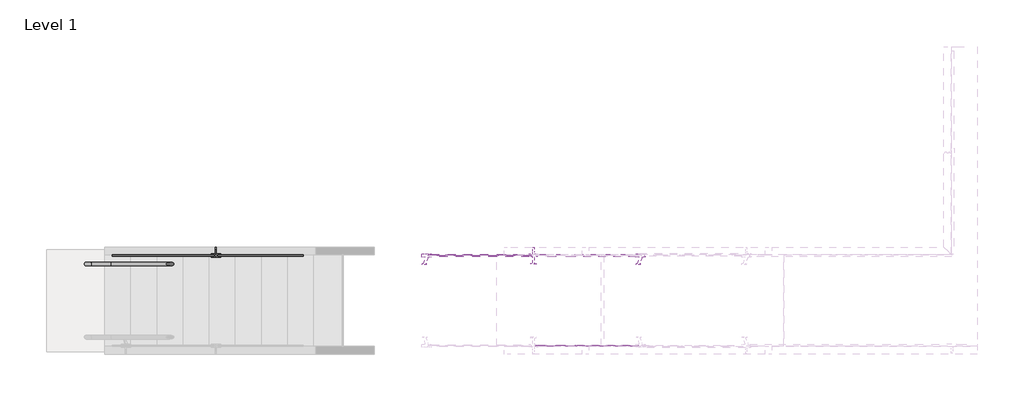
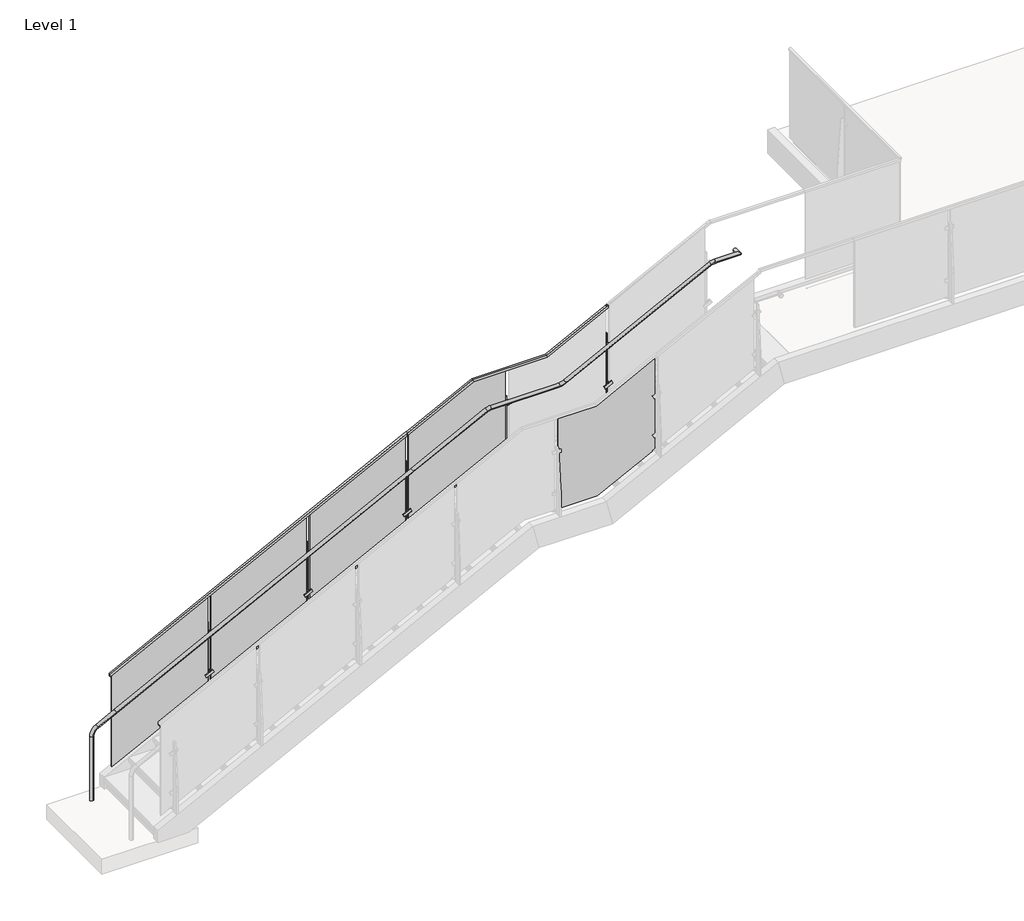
# One storey, part 28 of 37: 4 railings.
"""IFC4 building model written with IfcOpenShell, lengths in millimetres."""

from ifc_helpers import new_model, si_unit, point, frame, frame_2d, origin, place, context, project, spatial, polyline, circle_curve, ellipse_curve, trimmed, segment, composite_curve, outline, extrude, faceted_brep, transform, mapped, element, save
from ifc_brep_helpers import plane_surface, cylinder_surface, revolved_surface, advanced_brep
from components import baluster_landing_panel_viva_solo_lower_standard_glass_1d528cd6, baluster_landing_panel_viva_solo_upper_standard_glass_f4311c0a

model = new_model("IFC4")

# Units and contexts
model_context = context("Model", 3, world=origin())
ifc_project = project(units=[si_unit("LENGTHUNIT", "METRE", prefix="MILLI")], contexts=[model_context])

# Site, building, storey
site = spatial("IfcSite", under=ifc_project)
building = spatial("IfcBuilding", under=site)
storey = spatial("IfcBuildingStorey", under=building, Name="Level 1", Elevation=0.0)

# Railings
placement = place(None, origin())
element("IfcRailing", 1, ObjectType="VIVA-SOLO-Glass-Top_Weld_Steel-Channel Mount-Stair_Left", at=placement, inside=storey, context=model_context, shape_type="SolidModel", body=[
    advanced_brep(
    [(7796.9363892, 13771.1266645, 3730.2297243), (7796.9363892, 13809.2266645, 3730.2297243), (8069.9863892, 13771.1266645, 3730.2297243), (8031.8863892, 13809.2266645, 3730.2297243), (8069.9863892, 13853.6766645, 3730.2297243), (8031.8863892, 13853.6766645, 3730.2297243)],
    [
        (0, 1, circle_curve(frame((7796.9363892, 13790.1766645, 3730.2297243), z_axis=(-1.0, 0.0, 0.0), x_axis=(0.0, 1.0, 0.0)), 19.05)),
        (1, 0, circle_curve(frame((7796.9363892, 13790.1766645, 3730.2297243), z_axis=(-1.0, 0.0, 0.0), x_axis=(0.0, 1.0, 0.0)), 19.05)),
        (0, 2),
        (2, 3, ellipse_curve(frame((8050.9363892, 13790.1766645, 3730.2297243), z_axis=(-0.7071067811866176, -0.7071067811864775, 0.0), x_axis=(-0.7071067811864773, 0.7071067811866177, 0.0)), 26.9407684, 19.05)),
        (3, 1),
        (3, 2, ellipse_curve(frame((8050.9363892, 13790.1766645, 3730.2297243), z_axis=(-0.7071067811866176, -0.7071067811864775, 0.0), x_axis=(-0.7071067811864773, 0.7071067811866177, 0.0)), 26.9407684, 19.05)),
        (4, 5, circle_curve(frame((8050.9363892, 13853.6766645, 3730.2297243), z_axis=(0.0, 1.0, 0.0), x_axis=(-1.0, 0.0, 0.0)), 19.05)),
        (5, 4, circle_curve(frame((8050.9363892, 13853.6766645, 3730.2297243), z_axis=(0.0, 1.0, 0.0), x_axis=(-1.0, 0.0, 0.0)), 19.05)),
        (2, 4),
        (5, 3),
    ],
    [
        plane_surface(frame((7796.9363892, 13790.1766645, 3730.2297243), z_axis=(-1.0, 0.0, 0.0), x_axis=(0.0, 0.0, 1.0))),
        cylinder_surface(frame((7796.9363892, 13790.1766645, 3730.2297243), z_axis=(-1.0, 0.0, 0.0), x_axis=(0.0, 1.0, 0.0)), 19.05),
        plane_surface(frame((8050.9363892, 13853.6766645, 3730.2297243), z_axis=(0.0, 1.0, 0.0), x_axis=(0.0, 0.0, 1.0))),
        cylinder_surface(frame((8050.9363892, 13790.1766645, 3730.2297243), z_axis=(0.0, -1.0, 0.0), x_axis=(-1.0, 0.0, 0.0)), 19.05),
    ],
    [
        (0, [[1, 2]]),
        (1, [[-1, 3, 4, 5]]),
        (1, [[-2, -5, 6, -3]]),
        (2, [[7, 8]]),
        (3, [[-4, 9, -8, 10]]),
        (3, [[-6, -10, -7, -9]]),
    ],
),
    extrude(outline(composite_curve([segment(trimmed(circle_curve(frame_2d((1187.6734986, 13790.1766645)), 50.8), [point((1187.6734986, 13840.9766645))], [point((1187.6734986, 13739.3766645))], False, "CARTESIAN"), True, "CONTINUOUS"), segment(trimmed(circle_curve(frame_2d((1187.6734986, 13790.1766645)), 50.8), [point((1187.6734986, 13739.3766645))], [point((1187.6734986, 13840.9766645))], False, "CARTESIAN"), True, "CONTINUOUS")], self_intersect=False)), frame((0.0, 0.0, -27.94), z_axis=(0.0, 0.0, 1.0), x_axis=(1.0, 0.0, 0.0)), (0.0, 0.0, 1.0), 19.05),
    advanced_brep(
    [(1187.6734986, 13771.1266645, -8.89), (1187.6734986, 13809.2266645, -8.89), (1187.6734986, 13771.1266645, 714.6335715), (1187.6734986, 13809.2266645, 714.6335715), (1243.1848475, 13809.2266645, 805.1785672), (1243.1848475, 13771.1266645, 805.1785672), (1437.6151207, 13771.1266645, 904.1462566), (1437.6151207, 13809.2266645, 904.1462566), (4587.2151207, 13771.1266645, 2507.3360764), (4587.2151207, 13809.2266645, 2507.3360764), (5374.6370692, 13771.1266645, 2908.1447034), (5374.6370692, 13809.2266645, 2908.1447034), (5420.7257203, 13809.2266645, 2919.1997077), (5420.7257203, 13771.1266645, 2919.1997077), (6143.8965574, 13771.1266645, 2919.1997077), (6143.8965574, 13809.2266645, 2919.1997077), (6207.2684526, 13809.2266645, 2934.4003386), (6207.2684526, 13771.1266645, 2934.4003386), (7749.0231226, 13771.1266645, 3719.17472), (7749.0231226, 13809.2266645, 3719.17472), (7795.1117737, 13809.2266645, 3730.2297243), (7795.1117737, 13771.1266645, 3730.2297243), (7796.9363892, 13771.1266645, 3730.2297243), (7796.9363892, 13809.2266645, 3730.2297243)],
    [
        (0, 1, circle_curve(frame((1187.6734986, 13790.1766645, -8.89), z_axis=(0.0, 0.0, -1.0), x_axis=(0.0, 1.0, 0.0)), 19.05)),
        (1, 0, circle_curve(frame((1187.6734986, 13790.1766645, -8.89), z_axis=(0.0, 0.0, -1.0), x_axis=(0.0, 1.0, 0.0)), 19.05)),
        (0, 2),
        (2, 3, circle_curve(frame((1187.6734986, 13790.1766645, 714.6335715), z_axis=(0.0, 0.0, -1.0), x_axis=(0.0, 1.0, 0.0)), 19.05)),
        (3, 1),
        (3, 2, circle_curve(frame((1187.6734986, 13790.1766645, 714.6335715), z_axis=(0.0, 0.0, -1.0), x_axis=(0.0, 1.0, 0.0)), 19.05)),
        (4, 3, circle_curve(frame((1289.2734986, 13809.2266645, 714.6335715), z_axis=(0.0, -1.0, 0.0), x_axis=(-0.9999999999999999, 0.0, 0.0)), 101.6)),
        (2, 5, circle_curve(frame((1289.2734986, 13771.1266645, 714.6335715), z_axis=(0.0, 1.0, 0.0), x_axis=(-0.9999999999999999, 0.0, 0.0)), 101.6)),
        (5, 4, circle_curve(frame((1243.1848475, 13790.1766645, 805.1785672), z_axis=(-0.8911909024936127, 0.0, -0.45362845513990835), x_axis=(0.0, 0.9999999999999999, 0.0)), 19.05)),
        (4, 5, circle_curve(frame((1243.1848475, 13790.1766645, 805.1785672), z_axis=(-0.8911909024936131, 0.0, -0.45362845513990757), x_axis=(0.0, 0.9999999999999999, 0.0)), 19.05)),
        (5, 6),
        (6, 7, circle_curve(frame((1437.6151207, 13790.1766645, 904.1462566), z_axis=(-0.8911909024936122, 0.0, -0.4536284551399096), x_axis=(0.0, 1.0, 0.0)), 19.05)),
        (7, 4),
        (7, 6, circle_curve(frame((1437.6151207, 13790.1766645, 904.1462566), z_axis=(-0.8911909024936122, 0.0, -0.4536284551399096), x_axis=(0.0, 1.0, 0.0)), 19.05)),
        (6, 8),
        (8, 9, circle_curve(frame((4587.2151207, 13790.1766645, 2507.3360764), z_axis=(-0.8911909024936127, 0.0, -0.45362845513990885), x_axis=(0.0, 1.0, 0.0)), 19.05)),
        (9, 7),
        (9, 8, circle_curve(frame((4587.2151207, 13790.1766645, 2507.3360764), z_axis=(-0.8911909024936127, 0.0, -0.45362845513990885), x_axis=(0.0, 1.0, 0.0)), 19.05)),
        (8, 10),
        (10, 11, circle_curve(frame((5374.6370692, 13790.1766645, 2908.1447034), z_axis=(-0.8911909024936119, 0.0, -0.45362845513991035), x_axis=(0.0, 1.0, 0.0)), 19.05)),
        (11, 9),
        (11, 10, circle_curve(frame((5374.6370692, 13790.1766645, 2908.1447034), z_axis=(-0.8911909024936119, 0.0, -0.45362845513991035), x_axis=(0.0, 1.0, 0.0)), 19.05)),
        (12, 13, circle_curve(frame((5420.7257203, 13790.1766645, 2919.1997077), z_axis=(1.0, 0.0, 0.0), x_axis=(0.0, 1.0, 0.0)), 19.05)),
        (13, 14),
        (14, 15, circle_curve(frame((6143.8965574, 13790.1766645, 2919.1997077), z_axis=(-1.0, 0.0, 0.0), x_axis=(0.0, 1.0, 0.0)), 19.05)),
        (15, 12),
        (13, 12, circle_curve(frame((5420.7257203, 13790.1766645, 2919.1997077), z_axis=(1.0, 0.0, 0.0), x_axis=(0.0, 1.0, 0.0)), 19.05)),
        (15, 14, circle_curve(frame((6143.8965574, 13790.1766645, 2919.1997077), z_axis=(-1.0, 0.0, 0.0), x_axis=(0.0, 1.0, 0.0)), 19.05)),
        (16, 15, circle_curve(frame((6143.8965574, 13809.2266645, 3058.8997077), z_axis=(0.0, 1.0, 0.0), x_axis=(0.0, 0.0, -0.9999999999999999)), 139.7)),
        (14, 17, circle_curve(frame((6143.8965574, 13771.1266645, 3058.8997077), z_axis=(0.0, -1.0, 0.0), x_axis=(0.0, 0.0, -0.9999999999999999)), 139.7)),
        (17, 16, circle_curve(frame((6207.2684526, 13790.1766645, 2934.4003386), z_axis=(-0.8911909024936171, 0.0, -0.4536284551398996), x_axis=(0.0, 0.9999999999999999, 0.0)), 19.05)),
        (16, 17, circle_curve(frame((6207.2684526, 13790.1766645, 2934.4003386), z_axis=(-0.8911909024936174, 0.0, -0.4536284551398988), x_axis=(0.0, 0.9999999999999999, 0.0)), 19.05)),
        (17, 18),
        (18, 19, circle_curve(frame((7749.0231226, 13790.1766645, 3719.17472), z_axis=(-0.8911909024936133, 0.0, -0.4536284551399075), x_axis=(0.0, 1.0, 0.0)), 19.05)),
        (19, 16),
        (19, 18, circle_curve(frame((7749.0231226, 13790.1766645, 3719.17472), z_axis=(-0.8911909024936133, 0.0, -0.4536284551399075), x_axis=(0.0, 1.0, 0.0)), 19.05)),
        (20, 19, circle_curve(frame((7795.1117737, 13809.2266645, 3628.6297243), z_axis=(0.0, -1.0, 0.0), x_axis=(-0.453628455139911, 0.0, 0.8911909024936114)), 101.6)),
        (18, 21, circle_curve(frame((7795.1117737, 13771.1266645, 3628.6297243), z_axis=(0.0, 1.0, 0.0), x_axis=(-0.453628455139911, 0.0, 0.8911909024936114)), 101.6)),
        (21, 20, circle_curve(frame((7795.1117737, 13790.1766645, 3730.2297243), z_axis=(-1.0, 0.0, 0.0), x_axis=(0.0, 1.0, 0.0)), 19.05)),
        (20, 21, circle_curve(frame((7795.1117737, 13790.1766645, 3730.2297243), z_axis=(-0.9999999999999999, 0.0, 0.0), x_axis=(0.0, 1.0, 0.0)), 19.05)),
        (22, 23, circle_curve(frame((7796.9363892, 13790.1766645, 3730.2297243), z_axis=(1.0, 0.0, 0.0), x_axis=(0.0, 1.0, 0.0)), 19.05)),
        (23, 22, circle_curve(frame((7796.9363892, 13790.1766645, 3730.2297243), z_axis=(1.0, 0.0, 0.0), x_axis=(0.0, 1.0, 0.0)), 19.05)),
        (21, 22),
        (23, 20),
        (12, 11, circle_curve(frame((5420.7257203, 13809.2266645, 2817.5997077), z_axis=(0.0, -1.0, 0.0), x_axis=(-0.4536284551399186, 0.0, 0.8911909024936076)), 101.6)),
        (10, 13, circle_curve(frame((5420.7257203, 13771.1266645, 2817.5997077), z_axis=(0.0, 1.0, 0.0), x_axis=(-0.4536284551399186, 0.0, 0.8911909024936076)), 101.6)),
    ],
    [
        plane_surface(frame((1168.6234986, 13752.0766645, -8.89), z_axis=(0.0, 0.0, -1.0), x_axis=(1.0, 0.0, 0.0))),
        cylinder_surface(frame((1187.6734986, 13790.1766645, -8.89), z_axis=(0.0, 0.0, -1.0), x_axis=(0.0, 1.0, 0.0)), 19.05),
        revolved_surface(trimmed(ellipse_curve(frame((1187.6734986, 13790.1766645, 714.6335715), z_axis=(0.0, 0.0, -0.9999999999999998), x_axis=(0.0, 0.9999999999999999, 0.0)), 19.05, 19.05), [point((1187.6734986, 13771.1266645, 714.6335715))], [point((1187.6734986, 13809.2266645, 714.6335715))], True, "CARTESIAN"), (1289.2734986, 13790.1766645, 714.6335715), (0.0, 0.9999999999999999, 0.0)),
        revolved_surface(trimmed(ellipse_curve(frame((1187.6734986, 13790.1766645, 714.6335715), z_axis=(0.0, 0.0, -0.9999999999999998), x_axis=(0.0, 0.9999999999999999, 0.0)), 19.05, 19.05), [point((1187.6734986, 13809.2266645, 714.6335715))], [point((1187.6734986, 13771.1266645, 714.6335715))], True, "CARTESIAN"), (1289.2734986, 13790.1766645, 714.6335715), (0.0, 0.9999999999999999, 0.0)),
        cylinder_surface(frame((1243.1848475, 13790.1766645, 805.1785672), z_axis=(-0.8911909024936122, 0.0, -0.4536284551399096), x_axis=(0.0, 1.0, 0.0)), 19.05),
        cylinder_surface(frame((1437.6151207, 13790.1766645, 904.1462566), z_axis=(-0.8911909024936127, 0.0, -0.45362845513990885), x_axis=(0.0, 1.0, 0.0)), 19.05),
        cylinder_surface(frame((4587.2151207, 13790.1766645, 2507.3360764), z_axis=(-0.8911909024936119, 0.0, -0.45362845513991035), x_axis=(0.0, 1.0, 0.0)), 19.05),
        cylinder_surface(frame((5420.7257203, 13790.1766645, 2919.1997077), z_axis=(-1.0, 0.0, 0.0), x_axis=(0.0, 1.0, 0.0)), 19.05),
        revolved_surface(trimmed(ellipse_curve(frame((6143.8965574, 13790.1766645, 2919.1997077), z_axis=(-0.9999999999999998, 0.0, 0.0), x_axis=(0.0, 0.9999999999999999, 0.0)), 19.05, 19.05), [point((6143.8965574, 13771.1266645, 2919.1997077))], [point((6143.8965574, 13809.2266645, 2919.1997077))], True, "CARTESIAN"), (6143.8965574, 13790.1766645, 3058.8997077), (0.0, -0.9999999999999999, 0.0)),
        revolved_surface(trimmed(ellipse_curve(frame((6143.8965574, 13790.1766645, 2919.1997077), z_axis=(-0.9999999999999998, 0.0, 0.0), x_axis=(0.0, 0.9999999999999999, 0.0)), 19.05, 19.05), [point((6143.8965574, 13809.2266645, 2919.1997077))], [point((6143.8965574, 13771.1266645, 2919.1997077))], True, "CARTESIAN"), (6143.8965574, 13790.1766645, 3058.8997077), (0.0, -0.9999999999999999, 0.0)),
        cylinder_surface(frame((6207.2684526, 13790.1766645, 2934.4003386), z_axis=(-0.8911909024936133, 0.0, -0.4536284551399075), x_axis=(0.0, 1.0, 0.0)), 19.05),
        revolved_surface(trimmed(ellipse_curve(frame((7749.0231226, 13790.1766645, 3719.17472), z_axis=(-0.8911909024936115, 0.0, -0.4536284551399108), x_axis=(0.0, 1.0, 0.0)), 19.05, 19.05), [point((7749.0231226, 13771.1266645, 3719.17472))], [point((7749.0231226, 13809.2266645, 3719.17472))], True, "CARTESIAN"), (7795.1117737, 13790.1766645, 3628.6297243), (0.0, 1.0, 0.0)),
        revolved_surface(trimmed(ellipse_curve(frame((7749.0231226, 13790.1766645, 3719.17472), z_axis=(-0.8911909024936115, 0.0, -0.4536284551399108), x_axis=(0.0, 1.0, 0.0)), 19.05, 19.05), [point((7749.0231226, 13809.2266645, 3719.17472))], [point((7749.0231226, 13771.1266645, 3719.17472))], True, "CARTESIAN"), (7795.1117737, 13790.1766645, 3628.6297243), (0.0, 1.0, 0.0)),
        plane_surface(frame((7796.9363892, 13790.1766645, 3749.2797243), z_axis=(1.0, 0.0, 0.0), x_axis=(0.0, 1.0, 0.0))),
        cylinder_surface(frame((7795.1117737, 13790.1766645, 3730.2297243), z_axis=(-1.0, 0.0, 0.0), x_axis=(0.0, 1.0, 0.0)), 19.05),
        revolved_surface(trimmed(ellipse_curve(frame((5374.6370692, 13790.1766645, 2908.1447034), z_axis=(-0.8911909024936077, 0.0, -0.45362845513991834), x_axis=(0.0, 1.0, 0.0)), 19.05, 19.05), [point((5374.6370692, 13771.1266645, 2908.1447034))], [point((5374.6370692, 13809.2266645, 2908.1447034))], True, "CARTESIAN"), (5420.7257203, 13790.1766645, 2817.5997077), (0.0, 1.0, 0.0)),
        revolved_surface(trimmed(ellipse_curve(frame((5374.6370692, 13790.1766645, 2908.1447034), z_axis=(-0.8911909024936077, 0.0, -0.45362845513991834), x_axis=(0.0, 1.0, 0.0)), 19.05, 19.05), [point((5374.6370692, 13809.2266645, 2908.1447034))], [point((5374.6370692, 13771.1266645, 2908.1447034))], True, "CARTESIAN"), (5420.7257203, 13790.1766645, 2817.5997077), (0.0, 1.0, 0.0)),
    ],
    [
        (0, [[1, 2]]),
        (1, [[-1, 3, 4, 5]]),
        (1, [[-2, -5, 6, -3]]),
        (2, [[7, -4, 8, 9]]),
        (3, [[-8, -6, -7, 10]]),
        (4, [[-9, 11, 12, 13]]),
        (4, [[-10, -13, 14, -11]]),
        (5, [[-12, 15, 16, 17]]),
        (5, [[-14, -17, 18, -15]]),
        (6, [[-16, 19, 20, 21]]),
        (6, [[-18, -21, 22, -19]]),
        (7, [[23, 24, 25, 26]]),
        (7, [[27, -26, 28, -24]]),
        (8, [[29, -25, 30, 31]]),
        (9, [[-30, -28, -29, 32]]),
        (10, [[-31, 33, 34, 35]]),
        (10, [[-32, -35, 36, -33]]),
        (11, [[37, -34, 38, 39]]),
        (12, [[-38, -36, -37, 40]]),
        (13, [[41, 42]]),
        (14, [[-39, 43, -42, 44]]),
        (14, [[-40, -44, -41, -43]]),
        (15, [[45, -20, 46, -23]]),
        (16, [[-46, -22, -45, -27]]),
    ],
),
    faceted_brep([(1428.9734986, 13864.5986645, 1279.2634433), (1428.9734986, 13886.8236645, 1279.2634433), (1428.9734986, 13886.8236645, 1250.7622547), (1428.9734986, 13882.0611645, 1250.7622547), (1428.9734986, 13882.0611645, 1273.9194705), (1428.9734986, 13869.3611645, 1273.9194705), (1428.9734986, 13869.3611645, 1250.7622547), (1428.9734986, 13864.5986645, 1250.7622547), (4578.5734986, 13864.5986645, 2882.453263), (4578.5734986, 13864.5986645, 2853.9520744), (4578.5734986, 13869.3611645, 2853.9520744), (4578.5734986, 13869.3611645, 2877.1092902), (4578.5734986, 13882.0611645, 2877.1092902), (4578.5734986, 13882.0611645, 2853.9520744), (4578.5734986, 13886.8236645, 2853.9520744), (4578.5734986, 13886.8236645, 2882.453263)], [[[0, 1, 2, 3, 4, 5, 6, 7]], [[8, 9, 10, 11, 12, 13, 14, 15]], [[1, 0, 8, 15]], [[2, 1, 15, 14]], [[3, 2, 14, 13]], [[4, 3, 13, 12]], [[5, 4, 12, 11]], [[6, 5, 11, 10]], [[7, 6, 10, 9]], [[0, 7, 9, 8]]]),
    extrude(outline(polyline([(2868.4999629, 4562.0232119), (2351.3419566, 3546.0232119), (1300.06135, 3546.0232119), (1817.2193564, 4562.0232119), (2868.4999629, 4562.0232119)])), frame((0.0, 13869.4246645, 0.0), z_axis=(0.0, 1.0, 0.0), x_axis=(0.0, 0.0, 1.0)), (0.0, 0.0, 1.0), 12.7),
    extrude(outline(polyline([(-12.7, 0.0), (0.0, 0.0), (0.0, -3.175), (58.7375, -34.925), (61.9125, -34.925), (61.9125, -65.0875), (50.8, -65.0875), (-12.7, -3.175), (-12.7, 0.0)])), frame((3501.0892271, 13797.7361306, 1935.8078332), z_axis=(0.8987940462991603, 0.0, 0.4383711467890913), x_axis=(0.0, 1.0, 0.0)), (0.0, 0.0, 1.0), 12.7),
    extrude(outline(polyline([(13891.7131645, 2017.8566565), (13917.1131645, 2017.8566565), (13955.2131645, 1484.4566565), (13955.2131645, 1227.9420499), (13891.7131645, 1227.9420499), (13891.7131645, 2017.8566565)])), frame((3522.3568319, 0.0, 0.0), z_axis=(1.0, 0.0, 0.0), x_axis=(0.0, 1.0, 0.0)), (0.0, 0.0, 1.0), 12.7),
    extrude(outline(polyline([(0.0, 88.9), (9.525, 88.9), (9.525, 0.0), (0.0, 0.0), (0.0, 88.9)])), frame((3575.6284037, 13881.8736306, 1461.6851276), z_axis=(-0.4383711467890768, 0.0, 0.8987940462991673), x_axis=(0.0, 1.0, 0.0)), (0.0, 0.0, 1.0), 31.75),
    extrude(outline(polyline([(0.0, 88.9), (9.525, 88.9), (9.525, 0.0), (0.0, 0.0), (0.0, 88.9)])), frame((3575.6284037, 13859.6486306, 1898.8634122), z_axis=(-0.4383711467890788, 0.0, 0.8987940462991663), x_axis=(0.0, 1.0, 0.0)), (0.0, 0.0, 1.0), 31.75),
    extrude(outline(polyline([(0.0, 88.9), (9.525, 88.9), (9.525, 0.0), (0.0, 0.0), (0.0, 88.9)])), frame((3575.6284037, 13881.8736306, 1898.8634122), z_axis=(-0.4383711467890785, 0.0, 0.8987940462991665), x_axis=(0.0, 1.0, 0.0)), (0.0, 0.0, 1.0), 31.75),
    extrude(outline(polyline([(0.0, 88.9), (9.525, 88.9), (9.525, 0.0), (0.0, 0.0), (0.0, 88.9)])), frame((3575.6284037, 13859.6486306, 1461.6851276), z_axis=(-0.43837114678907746, 0.0, 0.898794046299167), x_axis=(0.0, 1.0, 0.0)), (0.0, 0.0, 1.0), 31.75),
    extrude(outline(polyline([(1305.1332085, 3564.4797891), (1310.8405507, 3561.6961324), (1271.8693557, 3481.7933416), (1266.1620135, 3484.5769984), (1265.9508552, 3534.1351435), (1305.1332085, 3564.4797891)])), frame((0.0, 13869.1736306, 0.0), z_axis=(0.0, 1.0, 0.0), x_axis=(0.0, 0.0, 1.0)), (0.0, 0.0, 1.0), 12.7),
    extrude(outline(composite_curve([segment(trimmed(circle_curve(frame_2d((24.5007934, -6.6985914)), 25.4), [point((0.0, 0.0))], [point((6.4034747, 11.1240644))], False, "CARTESIAN"), True, "CONTINUOUS"), segment(polyline([(6.4034747, 11.1240644), (8.7901893, 9.7460941)]), True, "CONTINUOUS"), segment(trimmed(circle_curve(frame_2d((26.8875079, -8.0765616)), 25.4), [point((8.7901893, 9.7460941))], [point((2.8057896, 0.0))], True, "CARTESIAN"), True, "CONTINUOUS"), segment(polyline([(2.8057896, 0.0), (0.0, 0.0)]), True, "CONTINUOUS")], self_intersect=False)), frame((3485.1681095, 13797.835377, 1924.9946344), z_axis=(0.8987940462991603, 0.0, 0.4383711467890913), x_axis=(-0.37964054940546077, -0.5000000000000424, 0.7783784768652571)), (0.0, 0.0, 1.0), 50.8),
    extrude(outline(composite_curve([segment(trimmed(circle_curve(frame_2d((1474.7125104, 3528.7178664)), 6.35), [point((1474.7125104, 3535.0678664))], [point((1474.7125104, 3522.3678664))], False, "CARTESIAN"), True, "CONTINUOUS"), segment(trimmed(circle_curve(frame_2d((1474.7125104, 3528.7178664)), 6.35), [point((1474.7125104, 3522.3678664))], [point((1474.7125104, 3535.0678664))], False, "CARTESIAN"), True, "CONTINUOUS")], self_intersect=False)), frame((0.0, 13869.1736306, 0.0), z_axis=(0.0, 1.0, 0.0), x_axis=(0.0, 0.0, 1.0)), (0.0, 0.0, 1.0), 12.7),
    extrude(outline(composite_curve([segment(trimmed(circle_curve(frame_2d((1892.9516201, 3528.7178664)), 6.35), [point((1892.9516201, 3535.0678664))], [point((1892.9516201, 3522.3678664))], False, "CARTESIAN"), True, "CONTINUOUS"), segment(trimmed(circle_curve(frame_2d((1892.9516201, 3528.7178664)), 6.35), [point((1892.9516201, 3522.3678664))], [point((1892.9516201, 3535.0678664))], False, "CARTESIAN"), True, "CONTINUOUS")], self_intersect=False)), frame((0.0, 13869.1736306, 0.0), z_axis=(0.0, 1.0, 0.0), x_axis=(0.0, 0.0, 1.0)), (0.0, 0.0, 1.0), 12.7),
    extrude(outline(composite_curve([segment(trimmed(circle_curve(frame_2d((1251.828047, 3528.7178664)), 11.1125), [point((1251.828047, 3539.8303664))], [point((1251.828047, 3517.6053664))], False, "CARTESIAN"), True, "CONTINUOUS"), segment(trimmed(circle_curve(frame_2d((1251.828047, 3528.7178664)), 11.1125), [point((1251.828047, 3517.6053664))], [point((1251.828047, 3539.8303664))], False, "CARTESIAN"), True, "CONTINUOUS")], self_intersect=False)), frame((0.0, 13865.9986306, 0.0), z_axis=(0.0, 1.0, 0.0), x_axis=(0.0, 0.0, 1.0)), (0.0, 0.0, 1.0), 25.4),
    extrude(outline(polyline([(2334.1033564, 3512.1565452), (1816.94535, 2496.1565452), (765.6647434, 2496.1565452), (1282.8227498, 3512.1565452), (2334.1033564, 3512.1565452)])), frame((0.0, 13869.4246645, 0.0), z_axis=(0.0, 1.0, 0.0), x_axis=(0.0, 0.0, 1.0)), (0.0, 0.0, 1.0), 12.7),
    extrude(outline(polyline([(-12.7, 0.0), (0.0, 0.0), (0.0, -3.175), (58.7375, -34.9249999), (61.9125, -34.9249999), (61.9125, -65.0875), (50.8, -65.0875), (-12.7, -3.175), (-12.7, 0.0)])), frame((2451.2225604, 13797.7361306, 1401.4112266), z_axis=(0.8987940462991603, 0.0, 0.4383711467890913), x_axis=(0.0, 1.0, 0.0)), (0.0, 0.0, 1.0), 12.7),
    extrude(outline(polyline([(13891.7131645, 1483.4600499), (13917.1131645, 1483.4600499), (13955.2131645, 950.0600499), (13955.2131645, 693.5454433), (13891.7131645, 693.5454433), (13891.7131645, 1483.4600499)])), frame((2472.4901653, 0.0, 0.0), z_axis=(1.0, 0.0, 0.0), x_axis=(0.0, 1.0, 0.0)), (0.0, 0.0, 1.0), 12.7),
    extrude(outline(polyline([(0.0, 88.9000001), (9.525, 88.9000001), (9.525, 0.0), (0.0, 0.0), (0.0, 88.9000001)])), frame((2525.7617371, 13881.8736306, 927.288521), z_axis=(-0.4383711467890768, 0.0, 0.8987940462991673), x_axis=(0.0, 1.0, 0.0)), (0.0, 0.0, 1.0), 31.75),
    extrude(outline(polyline([(0.0, 88.9000001), (9.525, 88.9000001), (9.525, 0.0), (0.0, 0.0), (0.0, 88.9000001)])), frame((2525.7617371, 13859.6486306, 1364.4668056), z_axis=(-0.4383711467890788, 0.0, 0.8987940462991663), x_axis=(0.0, 1.0, 0.0)), (0.0, 0.0, 1.0), 31.75),
    extrude(outline(polyline([(0.0, 88.9000001), (9.525, 88.9000001), (9.525, 0.0), (0.0, 0.0), (0.0, 88.9000001)])), frame((2525.7617371, 13881.8736306, 1364.4668056), z_axis=(-0.4383711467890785, 0.0, 0.8987940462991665), x_axis=(0.0, 1.0, 0.0)), (0.0, 0.0, 1.0), 31.75),
    extrude(outline(polyline([(0.0, 88.9000001), (9.525, 88.9000001), (9.525, 0.0), (0.0, 0.0), (0.0, 88.9000001)])), frame((2525.7617371, 13859.6486306, 927.288521), z_axis=(-0.43837114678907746, 0.0, 0.898794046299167), x_axis=(0.0, 1.0, 0.0)), (0.0, 0.0, 1.0), 31.75),
    extrude(outline(polyline([(770.7366019, 2514.6131225), (776.4439441, 2511.8294657), (737.4727491, 2431.926675), (731.7654069, 2434.7103318), (731.5542486, 2484.2684768), (770.7366019, 2514.6131225)])), frame((0.0, 13869.1736306, 0.0), z_axis=(0.0, 1.0, 0.0), x_axis=(0.0, 0.0, 1.0)), (0.0, 0.0, 1.0), 12.7),
    extrude(outline(composite_curve([segment(trimmed(circle_curve(frame_2d((24.5007933, -6.6985913)), 25.4), [point((0.0, 0.0))], [point((6.4034746, 11.1240644))], False, "CARTESIAN"), True, "CONTINUOUS"), segment(polyline([(6.4034746, 11.1240644), (8.7901892, 9.7460941)]), True, "CONTINUOUS"), segment(trimmed(circle_curve(frame_2d((26.8875078, -8.0765616)), 25.4), [point((8.7901892, 9.7460941))], [point((2.8057896, 0.0))], True, "CARTESIAN"), True, "CONTINUOUS"), segment(polyline([(2.8057896, 0.0), (0.0, 0.0)]), True, "CONTINUOUS")], self_intersect=False)), frame((2435.3014428, 13797.835377, 1390.5980279), z_axis=(0.8987940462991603, 0.0, 0.4383711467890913), x_axis=(-0.37964054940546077, -0.5000000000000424, 0.7783784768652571)), (0.0, 0.0, 1.0), 50.8),
    extrude(outline(composite_curve([segment(trimmed(circle_curve(frame_2d((940.3159039, 2478.8511997)), 6.35), [point((940.3159039, 2485.2011997))], [point((940.3159039, 2472.5011997))], False, "CARTESIAN"), True, "CONTINUOUS"), segment(trimmed(circle_curve(frame_2d((940.3159039, 2478.8511997)), 6.35), [point((940.3159039, 2472.5011997))], [point((940.3159039, 2485.2011997))], False, "CARTESIAN"), True, "CONTINUOUS")], self_intersect=False)), frame((0.0, 13869.1736306, 0.0), z_axis=(0.0, 1.0, 0.0), x_axis=(0.0, 0.0, 1.0)), (0.0, 0.0, 1.0), 12.7),
    extrude(outline(composite_curve([segment(trimmed(circle_curve(frame_2d((1358.5550135, 2478.8511997)), 6.35), [point((1358.5550135, 2485.2011997))], [point((1358.5550135, 2472.5011997))], False, "CARTESIAN"), True, "CONTINUOUS"), segment(trimmed(circle_curve(frame_2d((1358.5550135, 2478.8511997)), 6.35), [point((1358.5550135, 2472.5011997))], [point((1358.5550135, 2485.2011997))], False, "CARTESIAN"), True, "CONTINUOUS")], self_intersect=False)), frame((0.0, 13869.1736306, 0.0), z_axis=(0.0, 1.0, 0.0), x_axis=(0.0, 0.0, 1.0)), (0.0, 0.0, 1.0), 12.7),
    extrude(outline(composite_curve([segment(trimmed(circle_curve(frame_2d((717.4314405, 2478.8511997)), 11.1125), [point((717.4314405, 2489.9636997))], [point((717.4314405, 2467.7386997))], False, "CARTESIAN"), True, "CONTINUOUS"), segment(trimmed(circle_curve(frame_2d((717.4314405, 2478.8511997)), 11.1125), [point((717.4314405, 2467.7386997))], [point((717.4314405, 2489.9636997))], False, "CARTESIAN"), True, "CONTINUOUS")], self_intersect=False)), frame((0.0, 13865.9986306, 0.0), z_axis=(0.0, 1.0, 0.0), x_axis=(0.0, 0.0, 1.0)), (0.0, 0.0, 1.0), 25.4),
    extrude(outline(polyline([(1799.7067498, 2462.2898785), (1282.5487434, 1446.2898785), (231.2681369, 1446.2898785), (748.4261432, 2462.2898785), (1799.7067498, 2462.2898785)])), frame((0.0, 13869.4246645, 0.0), z_axis=(0.0, 1.0, 0.0), x_axis=(0.0, 0.0, 1.0)), (0.0, 0.0, 1.0), 12.7),
    extrude(outline(polyline([(-12.7, 0.0), (0.0, 0.0), (0.0, -3.175), (58.7375, -34.925), (61.9125, -34.925), (61.9125, -65.0875), (50.8, -65.0875), (-12.7, -3.175), (-12.7, 0.0)])), frame((4550.9558937, 13797.7361306, 2470.2044398), z_axis=(0.8987940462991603, 0.0, 0.4383711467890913), x_axis=(0.0, 1.0, 0.0)), (0.0, 0.0, 1.0), 12.7),
    extrude(outline(polyline([(13891.7131645, 2552.253263), (13917.1131645, 2552.253263), (13955.2131645, 2018.853263), (13955.2131645, 1762.3386565), (13891.7131645, 1762.3386565), (13891.7131645, 2552.253263)])), frame((4572.2234986, 0.0, 0.0), z_axis=(1.0, 0.0, 0.0), x_axis=(0.0, 1.0, 0.0)), (0.0, 0.0, 1.0), 12.7),
    extrude(outline(polyline([(0.0, 88.9), (9.525, 88.9), (9.525, 0.0), (0.0, 0.0), (0.0, 88.9)])), frame((4625.4950704, 13881.8736306, 1996.0817341), z_axis=(-0.4383711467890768, 0.0, 0.8987940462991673), x_axis=(0.0, 1.0, 0.0)), (0.0, 0.0, 1.0), 31.75),
    extrude(outline(polyline([(0.0, 88.9), (9.525, 88.9), (9.525, 0.0), (0.0, 0.0), (0.0, 88.9)])), frame((4625.4950704, 13859.6486306, 2433.2600188), z_axis=(-0.4383711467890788, 0.0, 0.8987940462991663), x_axis=(0.0, 1.0, 0.0)), (0.0, 0.0, 1.0), 31.75),
    extrude(outline(polyline([(0.0, 88.9), (9.525, 88.9), (9.525, 0.0), (0.0, 0.0), (0.0, 88.9)])), frame((4625.4950704, 13881.8736306, 2433.2600188), z_axis=(-0.4383711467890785, 0.0, 0.8987940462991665), x_axis=(0.0, 1.0, 0.0)), (0.0, 0.0, 1.0), 31.75),
    extrude(outline(polyline([(0.0, 88.9), (9.525, 88.9), (9.525, 0.0), (0.0, 0.0), (0.0, 88.9)])), frame((4625.4950704, 13859.6486306, 1996.0817341), z_axis=(-0.43837114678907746, 0.0, 0.898794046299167), x_axis=(0.0, 1.0, 0.0)), (0.0, 0.0, 1.0), 31.75),
    extrude(outline(polyline([(1839.529815, 4614.3464558), (1845.2371572, 4611.562799), (1806.2659623, 4531.6600083), (1800.5586201, 4534.4436651), (1800.3474618, 4584.0018101), (1839.529815, 4614.3464558)])), frame((0.0, 13869.1736306, 0.0), z_axis=(0.0, 1.0, 0.0), x_axis=(0.0, 0.0, 1.0)), (0.0, 0.0, 1.0), 12.7),
    extrude(outline(composite_curve([segment(trimmed(circle_curve(frame_2d((24.5007934, -6.6985914)), 25.4), [point((0.0, 0.0))], [point((6.4034747, 11.1240644))], False, "CARTESIAN"), True, "CONTINUOUS"), segment(polyline([(6.4034747, 11.1240644), (8.7901892, 9.7460941)]), True, "CONTINUOUS"), segment(trimmed(circle_curve(frame_2d((26.8875079, -8.0765616)), 25.4), [point((8.7901892, 9.7460941))], [point((2.8057896, 0.0))], True, "CARTESIAN"), True, "CONTINUOUS"), segment(polyline([(2.8057896, 0.0), (0.0, 0.0)]), True, "CONTINUOUS")], self_intersect=False)), frame((4535.0347762, 13797.835377, 2459.391241), z_axis=(0.8987940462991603, 0.0, 0.4383711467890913), x_axis=(-0.37964054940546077, -0.5000000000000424, 0.7783784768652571)), (0.0, 0.0, 1.0), 50.8),
    extrude(outline(composite_curve([segment(trimmed(circle_curve(frame_2d((2009.109117, 4578.5845331)), 6.35), [point((2009.109117, 4584.9345331))], [point((2009.109117, 4572.2345331))], False, "CARTESIAN"), True, "CONTINUOUS"), segment(trimmed(circle_curve(frame_2d((2009.109117, 4578.5845331)), 6.35), [point((2009.109117, 4572.2345331))], [point((2009.109117, 4584.9345331))], False, "CARTESIAN"), True, "CONTINUOUS")], self_intersect=False)), frame((0.0, 13869.1736306, 0.0), z_axis=(0.0, 1.0, 0.0), x_axis=(0.0, 0.0, 1.0)), (0.0, 0.0, 1.0), 12.7),
    extrude(outline(composite_curve([segment(trimmed(circle_curve(frame_2d((2427.3482267, 4578.5845331)), 6.35), [point((2427.3482267, 4584.9345331))], [point((2427.3482267, 4572.2345331))], False, "CARTESIAN"), True, "CONTINUOUS"), segment(trimmed(circle_curve(frame_2d((2427.3482267, 4578.5845331)), 6.35), [point((2427.3482267, 4572.2345331))], [point((2427.3482267, 4584.9345331))], False, "CARTESIAN"), True, "CONTINUOUS")], self_intersect=False)), frame((0.0, 13869.1736306, 0.0), z_axis=(0.0, 1.0, 0.0), x_axis=(0.0, 0.0, 1.0)), (0.0, 0.0, 1.0), 12.7),
    extrude(outline(composite_curve([segment(trimmed(circle_curve(frame_2d((1786.2246536, 4578.5845331)), 11.1125), [point((1786.2246536, 4589.6970331))], [point((1786.2246536, 4567.4720331))], False, "CARTESIAN"), True, "CONTINUOUS"), segment(trimmed(circle_curve(frame_2d((1786.2246536, 4578.5845331)), 11.1125), [point((1786.2246536, 4567.4720331))], [point((1786.2246536, 4589.6970331))], False, "CARTESIAN"), True, "CONTINUOUS")], self_intersect=False)), frame((0.0, 13865.9986306, 0.0), z_axis=(0.0, 1.0, 0.0), x_axis=(0.0, 0.0, 1.0)), (0.0, 0.0, 1.0), 25.4),
])
element("IfcRailing", 2, ObjectType="VIVA-SOLO-Glass-Top_Weld_Steel-Channel Mount-Stair-Landing", at=placement, inside=storey, context=model_context, shape_type="SolidModel", body=[
    faceted_brep([(4578.4721922, 13864.5986645, 2882.4016967), (4578.4721922, 13886.8236645, 2882.4016967), (4578.4721922, 13886.8236645, 2853.9005081), (4578.4721922, 13882.0611645, 2853.9005081), (4578.4721922, 13882.0611645, 2877.0577238), (4578.4721922, 13869.3611645, 2877.0577238), (4578.4721922, 13869.3611645, 2853.9005081), (4578.4721922, 13864.5986645, 2853.9005081), (5276.9721922, 13864.5986645, 3237.9478261), (5276.9721922, 13886.8236645, 3237.9478261), (5283.0647357, 13886.8236645, 3212.5478261), (5283.0647357, 13882.0611645, 3212.5478261), (5278.1145441, 13882.0611645, 3233.1853261), (5278.1145441, 13869.3611645, 3233.1853261), (5283.0647357, 13869.3611645, 3212.5478261), (5283.0647357, 13864.5986645, 3212.5478261), (6058.0221922, 13864.5986645, 3237.9478261), (6058.0221922, 13886.8236645, 3237.9478261), (6064.1147357, 13886.8236645, 3212.5478261), (6064.1147357, 13882.0611645, 3212.5478261), (6059.1645441, 13882.0611645, 3233.1853261), (6059.1645441, 13869.3611645, 3233.1853261), (6064.1147357, 13869.3611645, 3212.5478261), (6064.1147357, 13864.5986645, 3212.5478261), (6712.0721922, 13864.5986645, 3570.8682927), (6712.0721922, 13864.5986645, 3542.3671041), (6712.0721922, 13869.3611645, 3542.3671041), (6712.0721922, 13869.3611645, 3565.5243198), (6712.0721922, 13882.0611645, 3565.5243198), (6712.0721922, 13882.0611645, 3542.3671041), (6712.0721922, 13886.8236645, 3542.3671041), (6712.0721922, 13886.8236645, 3570.8682927)], [[[0, 1, 2, 3, 4, 5, 6, 7]], [[1, 0, 8, 9]], [[2, 1, 9, 10]], [[3, 2, 10, 11]], [[4, 3, 11, 12]], [[5, 4, 12, 13]], [[6, 5, 13, 14]], [[7, 6, 14, 15]], [[0, 7, 15, 8]], [[9, 8, 16, 17]], [[10, 9, 17, 18]], [[11, 10, 18, 19]], [[12, 11, 19, 20]], [[13, 12, 20, 21]], [[14, 13, 21, 22]], [[15, 14, 22, 23]], [[8, 15, 23, 16]], [[24, 25, 26, 27, 28, 29, 30, 31]], [[17, 16, 24, 31]], [[18, 17, 31, 30]], [[19, 18, 30, 29]], [[20, 19, 29, 28]], [[21, 20, 28, 27]], [[22, 21, 27, 26]], [[23, 22, 26, 25]], [[16, 23, 25, 24]]]),
    extrude(outline(polyline([(13893.9356645, 2907.7478261), (13919.3356645, 2907.7478261), (13957.4356645, 2374.3478261), (13957.4356645, 2157.4318261), (13893.9356645, 2157.4318261), (13893.9356645, 2907.7478261)])), frame((5638.9221922, 0.0, 0.0), z_axis=(1.0, 0.0, 0.0), x_axis=(0.0, 1.0, 0.0)), (0.0, 0.0, 1.0), 12.7),
    extrude(outline(composite_curve([segment(trimmed(circle_curve(frame_2d((13793.5164466, 2922.209665)), 25.4), [point((13799.9399076, 2897.6353055))], [point((13787.1302333, 2897.6255995))], False, "CARTESIAN"), True, "CONTINUOUS"), segment(polyline([(13787.1302333, 2897.6255995), (13787.1302333, 2900.330124)]), True, "CONTINUOUS"), segment(trimmed(circle_curve(frame_2d((13793.5164466, 2924.9141895)), 25.4), [point((13787.1302333, 2900.330124))], [point((13798.5627982, 2900.020529))], True, "CARTESIAN"), True, "CONTINUOUS"), segment(polyline([(13798.5627982, 2900.020529), (13799.9399076, 2897.6353055)]), True, "CONTINUOUS")], self_intersect=False)), frame((5619.8682449, 0.0, 0.0), z_axis=(1.0, 0.0, 0.0), x_axis=(0.0, 1.0, 0.0)), (0.0, 0.0, 1.0), 51.8675839),
    extrude(outline(polyline([(13787.5731645, 2897.436595), (13800.2731645, 2897.436595), (13800.2731645, 2894.261595), (13859.0106645, 2862.511595), (13862.1856645, 2862.511595), (13862.1856645, 2832.349095), (13851.0731645, 2832.349095), (13787.5731645, 2894.261595), (13787.5731645, 2897.436595)])), frame((5638.7668383, 0.0, 0.0), z_axis=(1.0, 0.0, 0.0), x_axis=(0.0, 1.0, 0.0)), (0.0, 0.0, 1.0), 12.6482649),
    extrude(outline(polyline([(5600.8221922, 13884.4106645), (5600.8221922, 13893.9356645), (5689.7221922, 13893.9356645), (5689.7221922, 13884.4106645), (5600.8221922, 13884.4106645)])), frame((0.0, 0.0, 2371.3228955), z_axis=(0.0, 0.0, 1.0), x_axis=(1.0, 0.0, 0.0)), (0.0, 0.0, 1.0), 31.75),
    extrude(outline(polyline([(5600.8221922, 13884.4106645), (5600.8221922, 13893.9356645), (5689.7221922, 13893.9356645), (5689.7221922, 13884.4106645), (5600.8221922, 13884.4106645)])), frame((0.0, 0.0, 2831.6470448), z_axis=(0.0, 0.0, 1.0), x_axis=(1.0, 0.0, 0.0)), (0.0, 0.0, 1.0), 31.75),
    extrude(outline(polyline([(5600.8221922, 13862.1856645), (5600.8221922, 13871.7106645), (5689.7221922, 13871.7106645), (5689.7221922, 13862.1856645), (5600.8221922, 13862.1856645)])), frame((0.0, 0.0, 2371.3228955), z_axis=(0.0, 0.0, 1.0), x_axis=(1.0, 0.0, 0.0)), (0.0, 0.0, 1.0), 31.75),
    extrude(outline(polyline([(5600.8221922, 13862.1856645), (5600.8221922, 13871.7106645), (5689.7221922, 13871.7106645), (5689.7221922, 13862.1856645), (5600.8221922, 13862.1856645)])), frame((0.0, 0.0, 2831.6470448), z_axis=(0.0, 0.0, 1.0), x_axis=(1.0, 0.0, 0.0)), (0.0, 0.0, 1.0), 31.75),
    extrude(outline(polyline([(2195.5318261, 5689.7221922), (2195.5318261, 5600.8221922), (2189.1818261, 5600.8221922), (2167.2671774, 5645.2721922), (2189.1818261, 5689.7221922), (2195.5318261, 5689.7221922)])), frame((0.0, 13871.7106645, 0.0), z_axis=(0.0, 1.0, 0.0), x_axis=(0.0, 0.0, 1.0)), (0.0, 0.0, 1.0), 12.7),
    extrude(outline(composite_curve([segment(trimmed(circle_curve(frame_2d((2387.1978955, 5645.2721922)), 6.35), [point((2387.1978955, 5651.6221922))], [point((2387.1978955, 5638.9221922))], False, "CARTESIAN"), True, "CONTINUOUS"), segment(trimmed(circle_curve(frame_2d((2387.1978955, 5645.2721922)), 6.35), [point((2387.1978955, 5638.9221922))], [point((2387.1978955, 5651.6221922))], False, "CARTESIAN"), True, "CONTINUOUS")], self_intersect=False)), frame((0.0, 13871.7106645, 0.0), z_axis=(0.0, 1.0, 0.0), x_axis=(0.0, 0.0, 1.0)), (0.0, 0.0, 1.0), 12.7),
    extrude(outline(composite_curve([segment(trimmed(circle_curve(frame_2d((2847.5220448, 5645.2721922)), 6.35), [point((2847.5220448, 5651.6221922))], [point((2847.5220448, 5638.9221922))], False, "CARTESIAN"), True, "CONTINUOUS"), segment(trimmed(circle_curve(frame_2d((2847.5220448, 5645.2721922)), 6.35), [point((2847.5220448, 5638.9221922))], [point((2847.5220448, 5651.6221922))], False, "CARTESIAN"), True, "CONTINUOUS")], self_intersect=False)), frame((0.0, 13871.7106645, 0.0), z_axis=(0.0, 1.0, 0.0), x_axis=(0.0, 0.0, 1.0)), (0.0, 0.0, 1.0), 12.7),
    extrude(outline(composite_curve([segment(trimmed(circle_curve(frame_2d((2179.6568261, 5645.2721922)), 11.1125), [point((2179.6568261, 5656.3846922))], [point((2179.6568261, 5634.1596922))], False, "CARTESIAN"), True, "CONTINUOUS"), segment(trimmed(circle_curve(frame_2d((2179.6568261, 5645.2721922)), 11.1125), [point((2179.6568261, 5634.1596922))], [point((2179.6568261, 5656.3846922))], False, "CARTESIAN"), True, "CONTINUOUS")], self_intersect=False)), frame((0.0, 13868.5356645, 0.0), z_axis=(0.0, 1.0, 0.0), x_axis=(0.0, 0.0, 1.0)), (0.0, 0.0, 1.0), 25.4),
    extrude(outline(polyline([(-12.7, 0.0), (0.0, 0.0), (0.0, -3.175), (58.7375, -34.925), (61.9125, -34.925), (61.9125, -65.0875), (50.8, -65.0875), (-12.7, -3.175), (-12.7, 0.0)])), frame((6684.4545874, 13797.7361306, 3158.6194694), z_axis=(0.8987940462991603, 0.0, 0.4383711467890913), x_axis=(0.0, 1.0, 0.0)), (0.0, 0.0, 1.0), 12.7),
    extrude(outline(polyline([(13891.7131645, 3240.6682927), (13917.1131645, 3240.6682927), (13955.2131645, 2707.2682927), (13955.2131645, 2450.7536861), (13891.7131645, 2450.7536861), (13891.7131645, 3240.6682927)])), frame((6705.7221922, 0.0, 0.0), z_axis=(1.0, 0.0, 0.0), x_axis=(0.0, 1.0, 0.0)), (0.0, 0.0, 1.0), 12.7),
    extrude(outline(polyline([(0.0, 88.9), (9.525, 88.9), (9.525, 0.0), (0.0, 0.0), (0.0, 88.9)])), frame((6758.993764, 13881.8736306, 2684.4967638), z_axis=(-0.4383711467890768, 0.0, 0.8987940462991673), x_axis=(0.0, 1.0, 0.0)), (0.0, 0.0, 1.0), 31.75),
    extrude(outline(polyline([(0.0, 88.9), (9.525, 88.9), (9.525, 0.0), (0.0, 0.0), (0.0, 88.9)])), frame((6758.993764, 13859.6486306, 3121.6750484), z_axis=(-0.4383711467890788, 0.0, 0.8987940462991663), x_axis=(0.0, 1.0, 0.0)), (0.0, 0.0, 1.0), 31.75),
    extrude(outline(polyline([(0.0, 88.9), (9.525, 88.9), (9.525, 0.0), (0.0, 0.0), (0.0, 88.9)])), frame((6758.993764, 13881.8736306, 3121.6750484), z_axis=(-0.4383711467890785, 0.0, 0.8987940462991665), x_axis=(0.0, 1.0, 0.0)), (0.0, 0.0, 1.0), 31.75),
    extrude(outline(polyline([(0.0, 88.9), (9.525, 88.9), (9.525, 0.0), (0.0, 0.0), (0.0, 88.9)])), frame((6758.993764, 13859.6486306, 2684.4967638), z_axis=(-0.43837114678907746, 0.0, 0.898794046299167), x_axis=(0.0, 1.0, 0.0)), (0.0, 0.0, 1.0), 31.75),
    extrude(outline(polyline([(2527.9448447, 6747.8451494), (2533.6521869, 6745.0614927), (2494.6809919, 6665.1587019), (2488.9736497, 6667.9423587), (2488.7624914, 6717.5005038), (2527.9448447, 6747.8451494)])), frame((0.0, 13869.1736306, 0.0), z_axis=(0.0, 1.0, 0.0), x_axis=(0.0, 0.0, 1.0)), (0.0, 0.0, 1.0), 12.7),
    extrude(outline(composite_curve([segment(trimmed(circle_curve(frame_2d((24.5007933, -6.6985913)), 25.4), [point((0.0, 0.0))], [point((6.4034746, 11.1240644))], False, "CARTESIAN"), True, "CONTINUOUS"), segment(polyline([(6.4034746, 11.1240644), (8.7901892, 9.7460941)]), True, "CONTINUOUS"), segment(trimmed(circle_curve(frame_2d((26.8875078, -8.0765616)), 25.4), [point((8.7901892, 9.7460941))], [point((2.8057896, 0.0))], True, "CARTESIAN"), True, "CONTINUOUS"), segment(polyline([(2.8057896, 0.0), (0.0, 0.0)]), True, "CONTINUOUS")], self_intersect=False)), frame((6668.5334698, 13797.835377, 3147.8062707), z_axis=(0.8987940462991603, 0.0, 0.4383711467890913), x_axis=(-0.37964054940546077, -0.5000000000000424, 0.7783784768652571)), (0.0, 0.0, 1.0), 50.8),
    extrude(outline(composite_curve([segment(trimmed(circle_curve(frame_2d((2697.5241467, 6712.0832267)), 6.35), [point((2697.5241467, 6718.4332267))], [point((2697.5241467, 6705.7332267))], False, "CARTESIAN"), True, "CONTINUOUS"), segment(trimmed(circle_curve(frame_2d((2697.5241467, 6712.0832267)), 6.35), [point((2697.5241467, 6705.7332267))], [point((2697.5241467, 6718.4332267))], False, "CARTESIAN"), True, "CONTINUOUS")], self_intersect=False)), frame((0.0, 13869.1736306, 0.0), z_axis=(0.0, 1.0, 0.0), x_axis=(0.0, 0.0, 1.0)), (0.0, 0.0, 1.0), 12.7),
    extrude(outline(composite_curve([segment(trimmed(circle_curve(frame_2d((3115.7632563, 6712.0832267)), 6.35), [point((3115.7632563, 6718.4332267))], [point((3115.7632563, 6705.7332267))], False, "CARTESIAN"), True, "CONTINUOUS"), segment(trimmed(circle_curve(frame_2d((3115.7632563, 6712.0832267)), 6.35), [point((3115.7632563, 6705.7332267))], [point((3115.7632563, 6718.4332267))], False, "CARTESIAN"), True, "CONTINUOUS")], self_intersect=False)), frame((0.0, 13869.1736306, 0.0), z_axis=(0.0, 1.0, 0.0), x_axis=(0.0, 0.0, 1.0)), (0.0, 0.0, 1.0), 12.7),
    extrude(outline(composite_curve([segment(trimmed(circle_curve(frame_2d((2474.6396833, 6712.0832267)), 11.1125), [point((2474.6396833, 6723.1957267))], [point((2474.6396833, 6700.9707267))], False, "CARTESIAN"), True, "CONTINUOUS"), segment(trimmed(circle_curve(frame_2d((2474.6396833, 6712.0832267)), 11.1125), [point((2474.6396833, 6700.9707267))], [point((2474.6396833, 6723.1957267))], False, "CARTESIAN"), True, "CONTINUOUS")], self_intersect=False)), frame((0.0, 13865.9986306, 0.0), z_axis=(0.0, 1.0, 0.0), x_axis=(0.0, 0.0, 1.0)), (0.0, 0.0, 1.0), 25.4),
    extrude(outline(polyline([(-12.7, 0.0), (0.0, 0.0), (0.0, -3.175), (58.7375, -34.9249999), (61.9125, -34.9249999), (61.9125, -65.0874999), (50.8, -65.0874999), (-12.7, -3.175), (-12.7, 0.0)])), frame((4550.8545874, 13797.7361306, 2470.1528734), z_axis=(0.8987940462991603, 0.0, 0.4383711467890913), x_axis=(0.0, 1.0, 0.0)), (0.0, 0.0, 1.0), 12.7),
    extrude(outline(polyline([(13891.7131645, 2552.2016967), (13917.1131645, 2552.2016967), (13955.2131645, 2018.8016967), (13955.2131645, 1762.2870902), (13891.7131645, 1762.2870902), (13891.7131645, 2552.2016967)])), frame((4572.1221922, 0.0, 0.0), z_axis=(1.0, 0.0, 0.0), x_axis=(0.0, 1.0, 0.0)), (0.0, 0.0, 1.0), 12.7),
    extrude(outline(polyline([(0.0, 88.9), (9.525, 88.9), (9.525, 0.0), (0.0, 0.0), (0.0, 88.9)])), frame((4625.393764, 13881.8736306, 1996.0301678), z_axis=(-0.4383711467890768, 0.0, 0.8987940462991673), x_axis=(0.0, 1.0, 0.0)), (0.0, 0.0, 1.0), 31.75),
    extrude(outline(polyline([(0.0, 88.9), (9.525, 88.9), (9.525, 0.0), (0.0, 0.0), (0.0, 88.9)])), frame((4625.393764, 13859.6486306, 2433.2084524), z_axis=(-0.4383711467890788, 0.0, 0.8987940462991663), x_axis=(0.0, 1.0, 0.0)), (0.0, 0.0, 1.0), 31.75),
    extrude(outline(polyline([(0.0, 88.9), (9.525, 88.9), (9.525, 0.0), (0.0, 0.0), (0.0, 88.9)])), frame((4625.393764, 13881.8736306, 2433.2084524), z_axis=(-0.4383711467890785, 0.0, 0.8987940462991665), x_axis=(0.0, 1.0, 0.0)), (0.0, 0.0, 1.0), 31.75),
    extrude(outline(polyline([(0.0, 88.9), (9.525, 88.9), (9.525, 0.0), (0.0, 0.0), (0.0, 88.9)])), frame((4625.393764, 13859.6486306, 1996.0301678), z_axis=(-0.43837114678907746, 0.0, 0.898794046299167), x_axis=(0.0, 1.0, 0.0)), (0.0, 0.0, 1.0), 31.75),
    extrude(outline(polyline([(1839.4782487, 4614.2451494), (1845.1855909, 4611.4614927), (1806.214396, 4531.5587019), (1800.5070538, 4534.3423587), (1800.2958954, 4583.9005038), (1839.4782487, 4614.2451494)])), frame((0.0, 13869.1736306, 0.0), z_axis=(0.0, 1.0, 0.0), x_axis=(0.0, 0.0, 1.0)), (0.0, 0.0, 1.0), 12.7),
    extrude(outline(composite_curve([segment(trimmed(circle_curve(frame_2d((24.5007933, -6.6985913)), 25.4), [point((0.0, 0.0))], [point((6.4034746, 11.1240644))], False, "CARTESIAN"), True, "CONTINUOUS"), segment(polyline([(6.4034746, 11.1240644), (8.7901892, 9.7460941)]), True, "CONTINUOUS"), segment(trimmed(circle_curve(frame_2d((26.8875079, -8.0765616)), 25.4), [point((8.7901892, 9.7460941))], [point((2.8057896, 0.0))], True, "CARTESIAN"), True, "CONTINUOUS"), segment(polyline([(2.8057896, 0.0), (0.0, 0.0)]), True, "CONTINUOUS")], self_intersect=False)), frame((4534.9334698, 13797.835377, 2459.3396747), z_axis=(0.8987940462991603, 0.0, 0.4383711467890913), x_axis=(-0.37964054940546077, -0.5000000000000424, 0.7783784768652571)), (0.0, 0.0, 1.0), 50.8),
    extrude(outline(composite_curve([segment(trimmed(circle_curve(frame_2d((2009.0575507, 4578.4832267)), 6.35), [point((2009.0575507, 4584.8332267))], [point((2009.0575507, 4572.1332267))], False, "CARTESIAN"), True, "CONTINUOUS"), segment(trimmed(circle_curve(frame_2d((2009.0575507, 4578.4832267)), 6.35), [point((2009.0575507, 4572.1332267))], [point((2009.0575507, 4584.8332267))], False, "CARTESIAN"), True, "CONTINUOUS")], self_intersect=False)), frame((0.0, 13869.1736306, 0.0), z_axis=(0.0, 1.0, 0.0), x_axis=(0.0, 0.0, 1.0)), (0.0, 0.0, 1.0), 12.7),
    extrude(outline(composite_curve([segment(trimmed(circle_curve(frame_2d((2427.2966603, 4578.4832267)), 6.35), [point((2427.2966603, 4584.8332267))], [point((2427.2966603, 4572.1332267))], False, "CARTESIAN"), True, "CONTINUOUS"), segment(trimmed(circle_curve(frame_2d((2427.2966603, 4578.4832267)), 6.35), [point((2427.2966603, 4572.1332267))], [point((2427.2966603, 4584.8332267))], False, "CARTESIAN"), True, "CONTINUOUS")], self_intersect=False)), frame((0.0, 13869.1736306, 0.0), z_axis=(0.0, 1.0, 0.0), x_axis=(0.0, 0.0, 1.0)), (0.0, 0.0, 1.0), 12.7),
    extrude(outline(composite_curve([segment(trimmed(circle_curve(frame_2d((1786.1730873, 4578.4832267)), 11.1125), [point((1786.1730873, 4589.5957267))], [point((1786.1730873, 4567.3707267))], False, "CARTESIAN"), True, "CONTINUOUS"), segment(trimmed(circle_curve(frame_2d((1786.1730873, 4578.4832267)), 11.1125), [point((1786.1730873, 4567.3707267))], [point((1786.1730873, 4589.5957267))], False, "CARTESIAN"), True, "CONTINUOUS")], self_intersect=False)), frame((0.0, 13865.9986306, 0.0), z_axis=(0.0, 1.0, 0.0), x_axis=(0.0, 0.0, 1.0)), (0.0, 0.0, 1.0), 25.4),
])
baluster_landing_panel_viva_solo_lower_standard_glass_shape = baluster_landing_panel_viva_solo_lower_standard_glass_1d528cd6(model_context)
element("IfcRailing", 3, ObjectType="Baluster-Landing-Panel-VIVA-SOLO-Lower : Standard_Glass", at=placement, inside=storey, context=model_context, shape_type="MappedRepresentation", body=[
    mapped(baluster_landing_panel_viva_solo_lower_standard_glass_shape, transform((4598.4721389, 13915.4621645, 2120.3478261), x_axis=(0.0, -1.0, 0.0), y_axis=(1.0, 0.0, 0.0), z_axis=(0.0, 0.0, 1.0))),
])
baluster_landing_panel_viva_solo_upper_standard_glass_shape = baluster_landing_panel_viva_solo_upper_standard_glass_f4311c0a(model_context)
element("IfcRailing", 4, ObjectType="Baluster-Landing-Panel-VIVA-SOLO-Upper : Standard_Glass", at=placement, inside=storey, context=model_context, shape_type="MappedRepresentation", body=[
    mapped(baluster_landing_panel_viva_solo_upper_standard_glass_shape, transform((6687.6128159, 12938.1489352, 2120.3478261), x_axis=(0.0, 1.0, 0.0), y_axis=(-1.0, 0.0, 0.0), z_axis=(0.0, 0.0, 1.0))),
])

save(model, "model.ifc")
